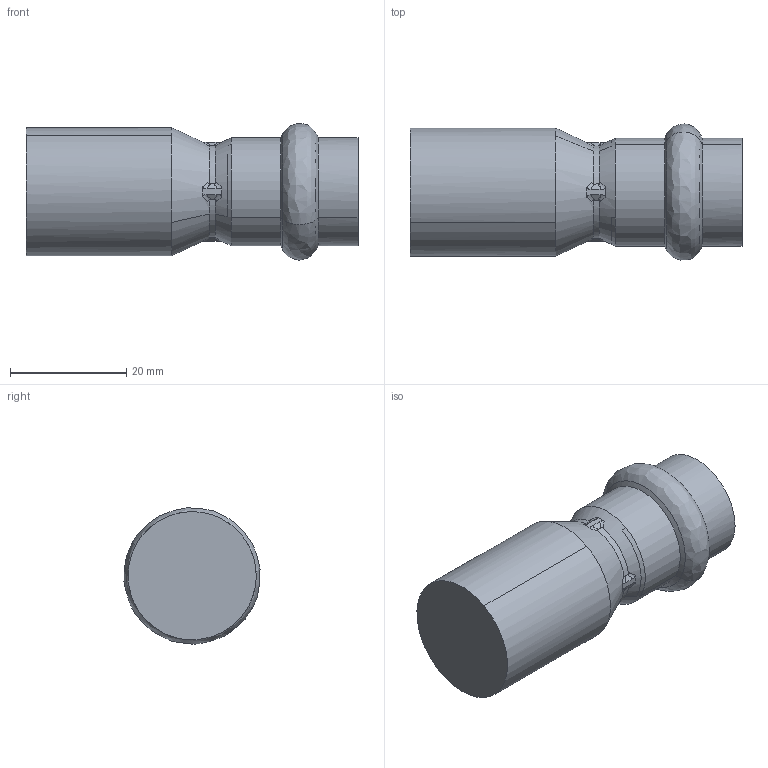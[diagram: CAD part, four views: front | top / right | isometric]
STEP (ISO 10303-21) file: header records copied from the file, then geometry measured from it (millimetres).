
FILE_DESCRIPTION(('STEP AP214'),'1');
FILE_NAME('pim0003507.stp','2015-05-11T20:25:19',('CAD-PIM'),('TransMagic, Inc.'),'TMR11sp0','TransMagic R11',' ');
FILE_SCHEMA(('AUTOMOTIVE_DESIGN'));
Length unit declared in the file: millimetre
Products named in the file (1): pim0003507
Bounding box: 57 x 23.35 x 23.41 mm (x, y, z)
Volume: 14924.5 mm3; surface area: 5538.2 mm2
Topology: 1 solids, 1 shells, 69 faces, 194 edges, 128 vertices
Faces by surface type: bspline 57, cylinder 8, cone 4
Entity records: 3850 total; most frequent: CARTESIAN_POINT 1967, ORIENTED_EDGE 388, EDGE_CURVE 194, VERTEX_POINT 128, B_SPLINE_CURVE_WITH_KNOTS 128, DIRECTION 94, STYLED_ITEM 70, PRESENTATION_STYLE_ASSIGNMENT 70
